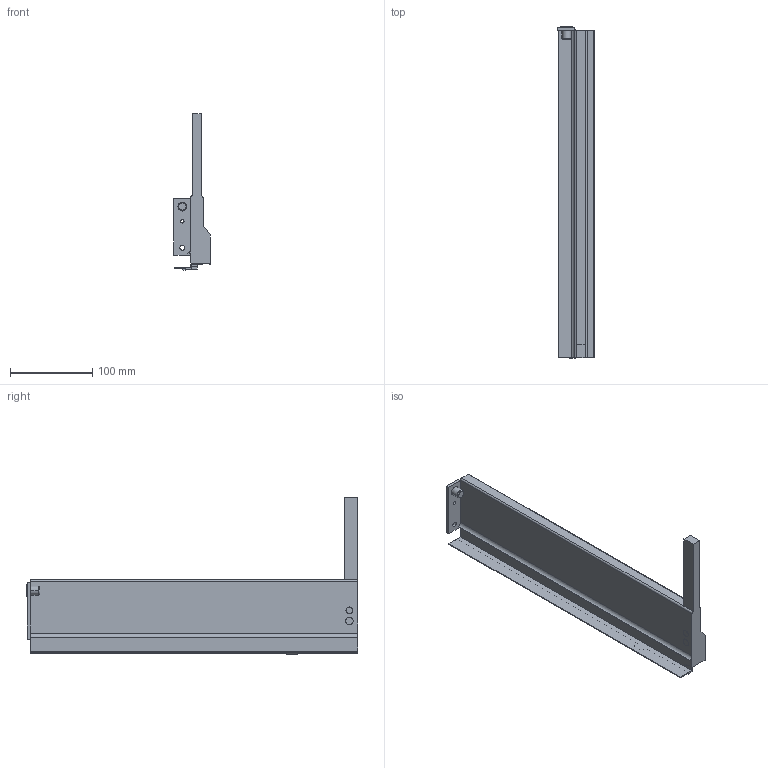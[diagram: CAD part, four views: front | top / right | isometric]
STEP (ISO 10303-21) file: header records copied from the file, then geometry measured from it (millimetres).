
FILE_DESCRIPTION (( 'STEP AP214' ), '1' );
FILE_NAME ('IMOS_NOVA-Pro_Crystal_Dekor-H90_CL_NL400_RE.step', '2010-09-28T09:46:58', ( 'Grass' ), ( '' ), 'SwSTEP 2.0', 'SolidWorks 2010', '' );
FILE_SCHEMA (( 'AUTOMOTIVE_DESIGN' ));
Length unit declared in the file: millimetre
Products named in the file (1): IMOS_NOVA-Pro_Crystal_Dekor-H90_CL_NL400_RE
Bounding box: 44.3 x 402.7 x 190.38 mm (x, y, z)
Volume: 374629.1 mm3; surface area: 144918.9 mm2
Topology: 1 solids, 1 shells, 94 faces, 256 edges, 169 vertices
Faces by surface type: plane 59, cylinder 30, cone 4, bspline 1
Entity records: 3009 total; most frequent: CARTESIAN_POINT 533, ORIENTED_EDGE 512, DIRECTION 506, EDGE_CURVE 256, VECTOR 190, LINE 190, VERTEX_POINT 169, AXIS2_PLACEMENT_3D 158
